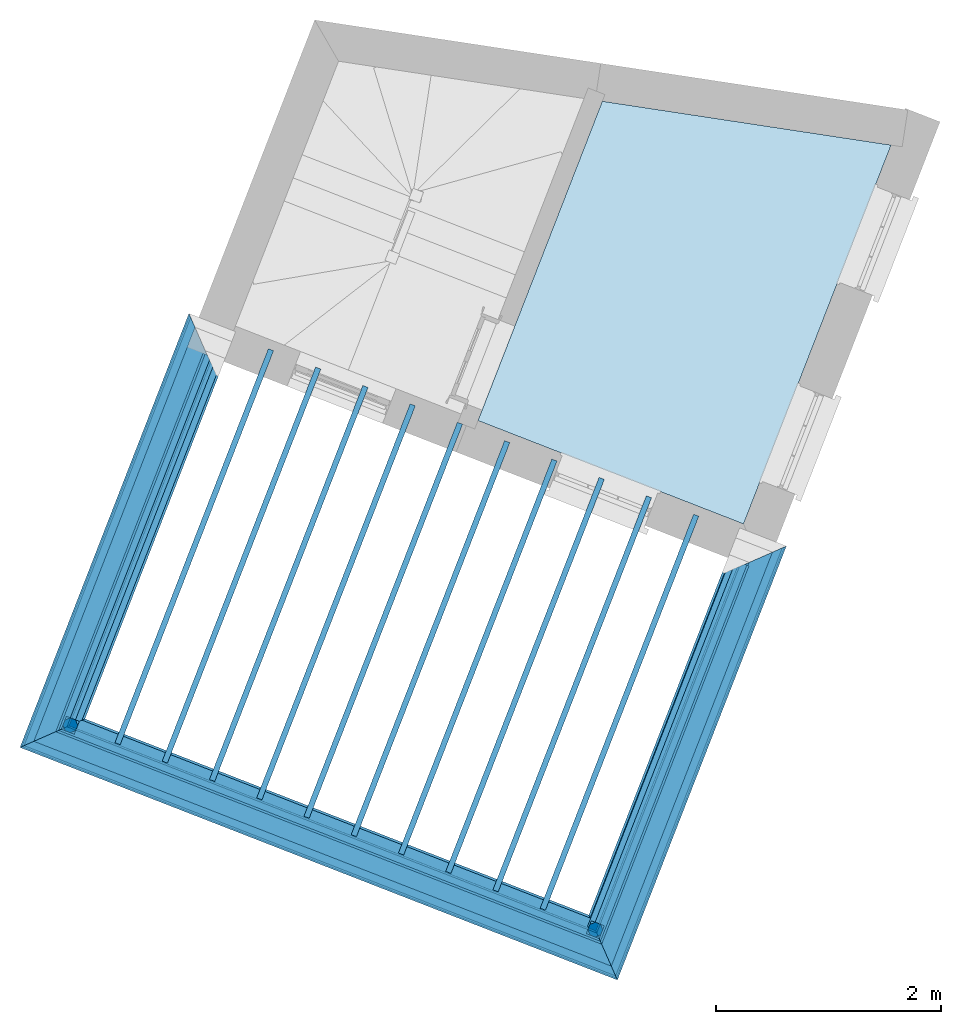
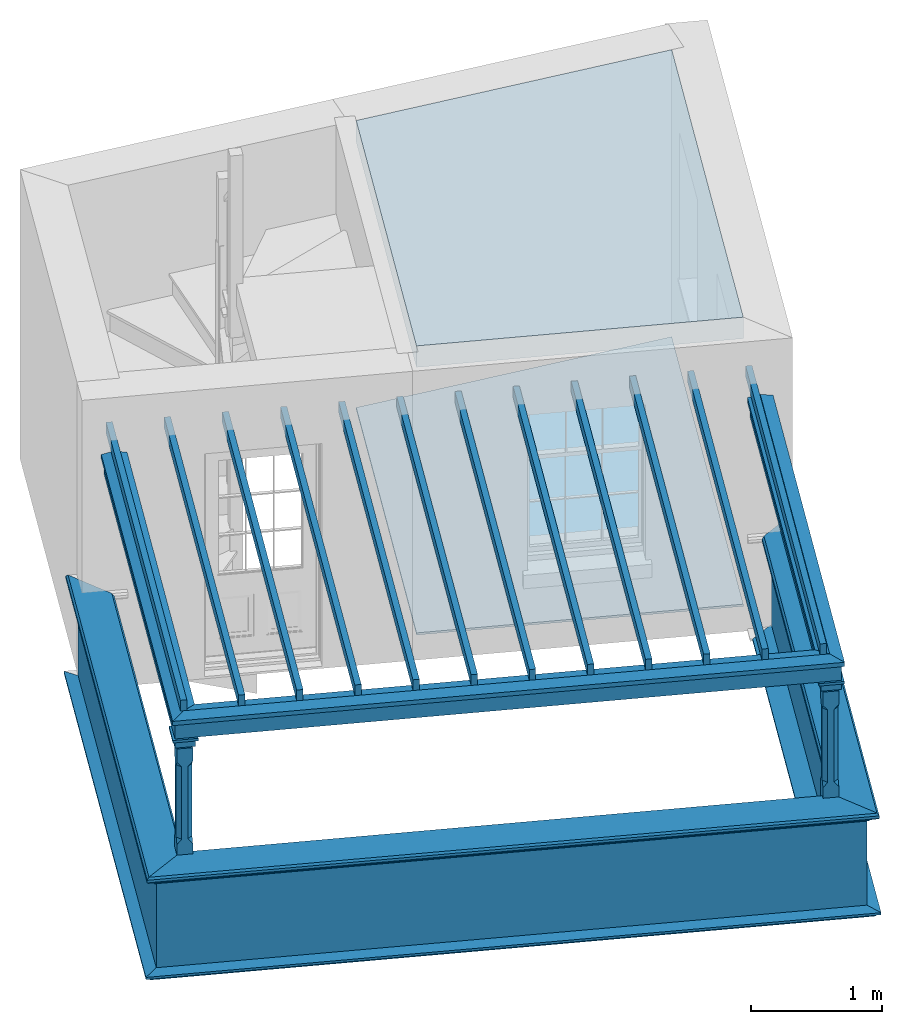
# One storey, part 1 of 5: 18 beams, 9 walls, 2 columns, 2 slabs.
"""IFC4 building model written with IfcOpenShell, lengths in metres."""

from ifc_helpers import new_model, si_unit, frame, origin, origin_with_axes, place, context, subcontext, project, spatial, polyline, outline, extrude, clip, halfspace, faceted_brep, source, transform, mapped, material_profile, profile_set, profile_usage, type_object, type_shapes, element, save


model = new_model("IFC4")

# Units and contexts
model_context = context("Model", 3, world=origin_with_axes())
body_context = subcontext(model_context, "Body", "Model", "MODEL_VIEW")
ifc_project = project(units=[si_unit("PLANEANGLEUNIT", "RADIAN"), si_unit("MASSUNIT", "GRAM", prefix="KILO"), si_unit("FORCEUNIT", "NEWTON", prefix="KILO"), si_unit("LENGTHUNIT", "METRE"), si_unit("AREAUNIT", "SQUARE_METRE"), si_unit("VOLUMEUNIT", "CUBIC_METRE")], contexts=[model_context, model_context])

# Sites, building, storey
site_1_placement = place(None, origin_with_axes())
site_1 = spatial("IfcSite", under=ifc_project, at=site_1_placement, Name="Tamar")
site_2_placement = place(site_1_placement, origin_with_axes())
site_2 = spatial("IfcSite", under=site_1, at=site_2_placement, Name="Site plot-10", CompositionType="ELEMENT")
building_placement = place(None, origin_with_axes())
building = spatial("IfcBuilding", under=site_2, at=building_placement, Name="Building plot-10", CompositionType="ELEMENT")
storey_placement = place(None, frame((0.0, 0.0, 30.1), z_axis=(0.0, 0.0, 1.0), x_axis=(1.0, 0.0, 0.0)))
storey = spatial("IfcBuildingStorey", under=building, at=storey_placement, Name="plot-10 1", CompositionType="ELEMENT", Elevation=30.1)

# Columns
column_type = type_object("IfcColumnType", Name="pergola post", PredefinedType="NOTDEFINED")
shared_shape = source(origin(), body_context, "Body", "Brep", [
    faceted_brep([(0.0246, -0.0615, 1.72), (0.0615, -0.0246, 1.72), (0.0615, -0.0615, 1.766667), (0.0615, -0.0246, 1.044444), (0.0246, -0.0615, 1.044444), (0.0615, 0.0246, 1.72), (0.0615, 0.0615, 1.766667), (-0.0246, -0.0615, 1.72), (-0.0615, -0.0615, 1.766667), (-0.0246, -0.0615, 1.044444), (0.0615, -0.0615, 0.997778), (0.0615, 0.0246, 1.044444), (0.0246, 0.0615, 1.72), (0.0615, 0.0615, 1.891111), (0.0615, -0.0615, 1.891111), (-0.0615, -0.0615, 1.891111), (-0.0615, -0.0246, 1.72), (-0.0615, -0.0246, 1.044444), (-0.0615, -0.0615, 0.997778), (0.0615, 0.0615, 0.997778), (0.0246, 0.0615, 1.044444), (-0.0246, 0.0615, 1.72), (-0.0615, 0.0615, 1.766667), (0.04305, 0.04305, 1.891111), (0.04305, -0.04305, 1.891111), (-0.0615, 0.0615, 1.891111), (-0.04305, -0.04305, 1.891111), (-0.0615, 0.0246, 1.72), (-0.0615, 0.0246, 1.044444), (0.0615, -0.0615, 0.053333), (-0.0615, -0.0615, 0.053333), (0.0615, 0.0615, 0.053333), (-0.0246, 0.0615, 1.044444), (-0.04305, 0.04305, 1.891111), (0.04305, 0.04305, 1.914444), (0.04305, -0.04305, 1.914444), (-0.04305, -0.04305, 1.914444), (-0.0615, 0.0615, 0.997778), (-0.0615, 0.0615, 0.053333), (-0.04305, -0.04305, 0.053333), (0.04305, -0.04305, 0.053333), (0.04305, 0.04305, 0.053333), (-0.04305, 0.04305, 1.914444), (0.07995, 0.07995, 1.914444), (0.07995, -0.07995, 1.914444), (-0.07995, -0.07995, 1.914444), (-0.04305, 0.04305, 0.053333), (-0.04305, -0.04305, 0.0), (0.04305, -0.04305, 0.0), (0.04305, 0.04305, 0.0), (-0.07995, 0.07995, 1.914444), (0.07995, 0.07995, 1.976667), (0.07995, -0.07995, 1.976667), (-0.07995, -0.07995, 1.976667), (-0.04305, 0.04305, 0.0), (-0.07995, 0.07995, 1.976667), (0.0984, 0.0984, 1.976667), (0.0984, -0.0984, 1.976667), (-0.0984, -0.0984, 1.976667), (-0.0984, 0.0984, 1.976667), (0.0984, 0.0984, 2.0), (0.0984, -0.0984, 2.0), (-0.0984, -0.0984, 2.0), (-0.0984, 0.0984, 2.0)], [[[0, 1, 2]], [[3, 1, 0, 4]], [[1, 5, 6, 2]], [[7, 0, 2, 8]], [[4, 0, 7, 9]], [[3, 4, 10]], [[1, 3, 11, 5]], [[5, 12, 6]], [[13, 14, 2, 6]], [[15, 8, 2, 14]], [[8, 16, 7]], [[9, 7, 16, 17]], [[9, 18, 10, 4]], [[3, 10, 19, 11]], [[20, 12, 5, 11]], [[21, 22, 6, 12]], [[14, 13, 23, 24]], [[13, 6, 22, 25]], [[25, 22, 8, 15]], [[26, 15, 14, 24]], [[16, 8, 22, 27]], [[27, 28, 17, 16]], [[17, 18, 9]], [[29, 10, 18, 30]], [[31, 19, 10, 29]], [[20, 11, 19]], [[12, 20, 32, 21]], [[21, 27, 22]], [[33, 23, 13, 25]], [[23, 34, 35, 24]], [[26, 33, 25, 15]], [[36, 26, 24, 35]], [[28, 27, 21, 32]], [[17, 28, 37, 18]], [[38, 30, 18, 37]], [[29, 30, 39, 40]], [[31, 38, 37, 19]], [[40, 41, 31, 29]], [[32, 20, 19, 37]], [[33, 42, 34, 23]], [[43, 44, 35, 34]], [[42, 33, 26, 36]], [[36, 35, 44, 45]], [[28, 32, 37]], [[46, 39, 30, 38]], [[39, 47, 48, 40]], [[46, 38, 31, 41]], [[49, 41, 40, 48]], [[43, 34, 42, 50]], [[43, 51, 52, 44]], [[45, 50, 42, 36]], [[53, 45, 44, 52]], [[46, 54, 47, 39]], [[54, 46, 41, 49]], [[50, 55, 51, 43]], [[56, 57, 52, 51]], [[55, 50, 45, 53]], [[53, 52, 57, 58]], [[56, 51, 55, 59]], [[56, 60, 61, 57]], [[58, 59, 55, 53]], [[62, 58, 57, 61]], [[59, 63, 60, 56]], [[63, 62, 61, 60]], [[58, 62, 63, 59]], [[47, 54, 49, 48]]]),
])
type_shapes(column_type, [shared_shape])
for number, where, z_axis, x_axis, name in (
    (1, (230.104635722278, 316.662695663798, 0.0), (0.0, 0.0, 1.0), (0.931863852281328, -0.36280815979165, 0.0), "pergola post"),
    (2, (234.763954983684, 314.84865486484, 0.0), (0.0, 0.0, 1.0), (0.362808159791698, 0.931863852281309, 0.0), "pergola post"),
):
    element("IfcColumn", number, at=place(storey_placement, frame(where, z_axis=z_axis, x_axis=x_axis)), inside=storey, type_object=column_type, Name=name, context=body_context, shape_type="MappedRepresentation", body=[
        mapped(shared_shape, transform((0.0, 0.0, 0.0), scale=1.0)),
    ])

# Beams
ifc_material_profile_1 = material_profile(None, outline(polyline([(-0.08, -0.7), (0.08, -0.7), (0.08, -0.56), (-0.08, -0.56), (-0.08, -0.7)])))
ifc_profile_set_1 = profile_set([ifc_material_profile_1])
ifc_profile_usage_1 = profile_usage(ifc_profile_set_1)
beam_type_1 = type_object("IfcBeamType", Name="pergola beam_0", PredefinedType="NOTDEFINED", material=ifc_profile_set_1)
beam_1_placement = place(storey_placement, frame((229.741827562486, 315.730831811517, 2.7), z_axis=(0.362808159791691, 0.931863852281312, 0.0), x_axis=(-0.931863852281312, 0.362808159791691, 0.0)))
element("IfcBeam", 3, at=beam_1_placement, inside=storey, type_object=beam_type_1, material=ifc_profile_usage_1, Name="pergola beam_0", context=body_context, shape_type="Clipping", body=[
    clip(clip(extrude(outline(polyline([(-0.08, -0.7), (0.08, -0.7), (0.08, -0.56), (-0.08, -0.56), (-0.08, -0.7)])), origin_with_axes(), (0.0, 0.0, 1.0), 5.50302305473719), halfspace(frame((0.0, 0.0, 4.50302305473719), z_axis=(1.94786928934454e-14, 0.0, -1.0), x_axis=(0.0, 1.0, 0.0)), True)), halfspace(frame((0.0, 0.0, 1.0), z_axis=(-0.707106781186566, 0.0, -0.707106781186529), x_axis=(0.0, 1.0, 0.0)), False)),
])
ifc_profile_usage_2 = profile_usage(ifc_profile_set_1)
beam_2_placement = place(storey_placement, frame((235.695818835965, 314.485846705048, 2.7), z_axis=(-0.931863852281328, 0.362808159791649, 0.0), x_axis=(-0.362808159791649, -0.931863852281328, 0.0)))
element("IfcBeam", 4, at=beam_2_placement, inside=storey, type_object=beam_type_1, material=ifc_profile_usage_2, Name="pergola beam_0", context=body_context, shape_type="Clipping", body=[
    clip(clip(extrude(outline(polyline([(-0.08, -0.7), (0.08, -0.7), (0.08, -0.56), (-0.08, -0.56), (-0.08, -0.7)])), origin_with_axes(), (0.0, 0.0, 1.0), 6.99999999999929), halfspace(frame((0.0, 0.0, 5.99999999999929), z_axis=(0.707106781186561, 0.0, -0.707106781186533), x_axis=(0.0, 1.0, 0.0)), True)), halfspace(frame((0.0, 0.0, 1.0), z_axis=(-0.707106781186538, 0.0, -0.707106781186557), x_axis=(0.0, 1.0, 0.0)), False)),
])
ifc_profile_usage_3 = profile_usage(ifc_profile_set_1)
beam_3_placement = place(storey_placement, frame((236.397688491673, 319.044859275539, 2.7), z_axis=(-0.362808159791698, -0.931863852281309, 0.0), x_axis=(0.931863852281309, -0.362808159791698, 0.0)))
element("IfcBeam", 5, at=beam_3_placement, inside=storey, type_object=beam_type_1, material=ifc_profile_usage_3, Name="pergola beam_0", context=body_context, shape_type="Clipping", body=[
    clip(clip(extrude(outline(polyline([(-0.08, -0.7), (0.08, -0.7), (0.08, -0.56), (-0.08, -0.56), (-0.08, -0.7)])), origin_with_axes(), (0.0, 0.0, 1.0), 5.5030230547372), halfspace(frame((0.0, 0.0, 4.5030230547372), z_axis=(0.70710678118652, 0.0, -0.707106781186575), x_axis=(0.0, 1.0, 0.0)), True)), halfspace(frame((0.0, 0.0, 1.0), z_axis=(1.21512209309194e-14, 0.0, -1.0), x_axis=(0.0, 1.0, 0.0)), False)),
])
ifc_material_profile_2 = material_profile(None, outline(polyline([(0.0, -0.5), (-0.1, -0.52), (-0.1, -0.56), (0.1, -0.56), (0.1, -0.52), (0.0, -0.5)])))
ifc_profile_set_2 = profile_set([ifc_material_profile_2])
ifc_profile_usage_4 = profile_usage(ifc_profile_set_2)
beam_type_2 = type_object("IfcBeamType", Name="pergola beam_1", PredefinedType="NOTDEFINED", material=ifc_profile_set_2)
beam_4_placement = place(storey_placement, frame((229.741827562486, 315.730831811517, 2.7), z_axis=(0.362808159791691, 0.931863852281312, 0.0), x_axis=(-0.931863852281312, 0.362808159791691, 0.0)))
element("IfcBeam", 6, at=beam_4_placement, inside=storey, type_object=beam_type_2, material=ifc_profile_usage_4, Name="pergola beam_1", context=body_context, shape_type="Clipping", body=[
    clip(clip(extrude(outline(polyline([(0.0, -0.5), (-0.1, -0.52), (-0.1, -0.56), (0.1, -0.56), (0.1, -0.52), (0.0, -0.5)])), origin_with_axes(), (0.0, 0.0, 1.0), 5.50302305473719), halfspace(frame((0.0, 0.0, 4.50302305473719), z_axis=(1.94786928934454e-14, 0.0, -1.0), x_axis=(0.0, 1.0, 0.0)), True)), halfspace(frame((0.0, 0.0, 1.0), z_axis=(-0.707106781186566, 0.0, -0.707106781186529), x_axis=(0.0, 1.0, 0.0)), False)),
])
ifc_profile_usage_5 = profile_usage(ifc_profile_set_2)
beam_5_placement = place(storey_placement, frame((235.695818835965, 314.485846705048, 2.7), z_axis=(-0.931863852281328, 0.362808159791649, 0.0), x_axis=(-0.362808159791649, -0.931863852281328, 0.0)))
element("IfcBeam", 7, at=beam_5_placement, inside=storey, type_object=beam_type_2, material=ifc_profile_usage_5, Name="pergola beam_1", context=body_context, shape_type="Clipping", body=[
    clip(clip(extrude(outline(polyline([(0.0, -0.5), (-0.1, -0.52), (-0.1, -0.56), (0.1, -0.56), (0.1, -0.52), (0.0, -0.5)])), origin_with_axes(), (0.0, 0.0, 1.0), 6.99999999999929), halfspace(frame((0.0, 0.0, 5.99999999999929), z_axis=(0.707106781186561, 0.0, -0.707106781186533), x_axis=(0.0, 1.0, 0.0)), True)), halfspace(frame((0.0, 0.0, 1.0), z_axis=(-0.707106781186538, 0.0, -0.707106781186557), x_axis=(0.0, 1.0, 0.0)), False)),
])
ifc_profile_usage_6 = profile_usage(ifc_profile_set_2)
beam_6_placement = place(storey_placement, frame((236.397688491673, 319.044859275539, 2.7), z_axis=(-0.362808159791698, -0.931863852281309, 0.0), x_axis=(0.931863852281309, -0.362808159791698, 0.0)))
element("IfcBeam", 8, at=beam_6_placement, inside=storey, type_object=beam_type_2, material=ifc_profile_usage_6, Name="pergola beam_1", context=body_context, shape_type="Clipping", body=[
    clip(clip(extrude(outline(polyline([(0.0, -0.5), (-0.1, -0.52), (-0.1, -0.56), (0.1, -0.56), (0.1, -0.52), (0.0, -0.5)])), origin_with_axes(), (0.0, 0.0, 1.0), 5.5030230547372), halfspace(frame((0.0, 0.0, 4.5030230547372), z_axis=(0.70710678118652, 0.0, -0.707106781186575), x_axis=(0.0, 1.0, 0.0)), True)), halfspace(frame((0.0, 0.0, 1.0), z_axis=(1.21512209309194e-14, 0.0, -1.0), x_axis=(0.0, 1.0, 0.0)), False)),
])
beam_7_placement = place(storey_placement, frame((230.081339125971, 316.671765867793, 2.2)))
element("IfcBeam", 9, at=beam_7_placement, inside=storey, Name="My Beam", ObjectType="Beam", context=body_context, shape_type="SweptSolid", body=[
    extrude(outline(polyline([(0.0, 0.0), (0.0465931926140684, -0.0181404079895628), (1.40822058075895, 3.47916611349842), (1.36162738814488, 3.49730652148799), (0.0, 0.0)])), origin_with_axes(), (0.0, 0.0, 1.0), 0.1),
])
beam_8_placement = place(storey_placement, frame((230.500677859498, 316.508502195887, 2.2)))
element("IfcBeam", 10, at=beam_8_placement, inside=storey, Name="My Beam", ObjectType="Beam", context=body_context, shape_type="SweptSolid", body=[
    extrude(outline(polyline([(0.0, 0.0), (0.0465931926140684, -0.0181404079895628), (1.40822058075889, 3.47916611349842), (1.36162738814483, 3.49730652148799), (0.0, 0.0)])), origin_with_axes(), (0.0, 0.0, 1.0), 0.1),
])
beam_9_placement = place(storey_placement, frame((230.920016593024, 316.34523852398, 2.2)))
element("IfcBeam", 11, at=beam_9_placement, inside=storey, Name="My Beam", ObjectType="Beam", context=body_context, shape_type="SweptSolid", body=[
    extrude(outline(polyline([(0.0, 0.0), (0.0465931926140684, -0.0181404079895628), (1.40822058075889, 3.47916611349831), (1.36162738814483, 3.49730652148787), (0.0, 0.0)])), origin_with_axes(), (0.0, 0.0, 1.0), 0.1),
])
beam_10_placement = place(storey_placement, frame((231.339355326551, 316.181974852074, 2.2)))
element("IfcBeam", 12, at=beam_10_placement, inside=storey, Name="My Beam", ObjectType="Beam", context=body_context, shape_type="SweptSolid", body=[
    extrude(outline(polyline([(0.0, 0.0), (0.0465931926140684, -0.0181404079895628), (1.40822058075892, 3.47916611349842), (1.36162738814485, 3.49730652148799), (0.0, 0.0)])), origin_with_axes(), (0.0, 0.0, 1.0), 0.1),
])
beam_11_placement = place(storey_placement, frame((231.758694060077, 316.018711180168, 2.2)))
element("IfcBeam", 13, at=beam_11_placement, inside=storey, Name="My Beam", ObjectType="Beam", context=body_context, shape_type="SweptSolid", body=[
    extrude(outline(polyline([(0.0, 0.0), (0.0465931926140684, -0.0181404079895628), (1.40822058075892, 3.47916611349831), (1.36162738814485, 3.49730652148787), (0.0, 0.0)])), origin_with_axes(), (0.0, 0.0, 1.0), 0.1),
])
beam_12_placement = place(storey_placement, frame((232.178032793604, 315.855447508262, 2.2)))
element("IfcBeam", 14, at=beam_12_placement, inside=storey, Name="My Beam", ObjectType="Beam", context=body_context, shape_type="SweptSolid", body=[
    extrude(outline(polyline([(0.0, 0.0), (0.0465931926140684, -0.0181404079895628), (1.40822058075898, 3.47916611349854), (1.36162738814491, 3.4973065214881), (0.0, 0.0)])), origin_with_axes(), (0.0, 0.0, 1.0), 0.1),
])
for number, where, name in (
    (15, (232.597371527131, 315.692183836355, 2.2), "My Beam"),
    (16, (233.016710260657, 315.528920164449, 2.2), "My Beam"),
):
    element("IfcBeam", number, at=place(storey_placement, frame(where)), inside=storey, Name=name, ObjectType="Beam", context=body_context, shape_type="SweptSolid", body=[
        extrude(outline(polyline([(0.0, 0.0), (0.0465931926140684, -0.0181404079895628), (1.40822058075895, 3.47916611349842), (1.36162738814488, 3.49730652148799), (0.0, 0.0)])), origin_with_axes(), (0.0, 0.0, 1.0), 0.1),
    ])
beam_13_placement = place(storey_placement, frame((233.436048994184, 315.365656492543, 2.2)))
element("IfcBeam", 17, at=beam_13_placement, inside=storey, Name="My Beam", ObjectType="Beam", context=body_context, shape_type="SweptSolid", body=[
    extrude(outline(polyline([(0.0, 0.0), (0.0465931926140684, -0.0181404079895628), (1.40822058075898, 3.47916611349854), (1.36162738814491, 3.4973065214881), (0.0, 0.0)])), origin_with_axes(), (0.0, 0.0, 1.0), 0.1),
])
for number, where, name in (
    (18, (233.85538772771, 315.202392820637, 2.2), "My Beam"),
    (19, (234.274726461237, 315.03912914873, 2.2), "My Beam"),
):
    element("IfcBeam", number, at=place(storey_placement, frame(where)), inside=storey, Name=name, ObjectType="Beam", context=body_context, shape_type="SweptSolid", body=[
        extrude(outline(polyline([(0.0, 0.0), (0.0465931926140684, -0.0181404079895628), (1.40822058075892, 3.47916611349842), (1.36162738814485, 3.49730652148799), (0.0, 0.0)])), origin_with_axes(), (0.0, 0.0, 1.0), 0.1),
    ])
beam_14_placement = place(storey_placement, frame((234.694065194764, 314.875865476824, 2.2)))
element("IfcBeam", 20, at=beam_14_placement, inside=storey, Name="My Beam", ObjectType="Beam", context=body_context, shape_type="SweptSolid", body=[
    extrude(outline(polyline([(0.0, 0.0), (0.0465931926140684, -0.0181404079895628), (1.40822058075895, 3.47916611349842), (1.36162738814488, 3.49730652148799), (0.0, 0.0)])), origin_with_axes(), (0.0, 0.0, 1.0), 0.1),
])

# Slabs
slab_1_placement = place(storey_placement, frame((234.82656201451, 322.201411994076, 2.5)))
element("IfcSlab", 21, at=slab_1_placement, inside=storey, Name="My Slab", ObjectType="Slab", PredefinedType="FLOOR", context=body_context, shape_type="SweptSolid", body=[
    extrude(outline(polyline([(0.0, 0.0), (-1.10346645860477, -2.83422651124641), (1.25349590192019, -3.75187684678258), (2.56278690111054, -0.38899505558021), (0.0, 0.0)])), origin_with_axes(), (0.0, 0.0, 1.0), 0.2),
])
slab_2_placement = place(storey_placement, frame((234.82656201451, 322.201411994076, 0.0)))
element("IfcSlab", 22, at=slab_2_placement, inside=storey, Name="My Slab", ObjectType="Slab", PredefinedType="FLOOR", context=body_context, shape_type="SweptSolid", body=[
    extrude(outline(polyline([(0.0, 0.0), (-1.10346645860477, -2.83422651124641), (1.25349590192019, -3.75187684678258), (2.56278690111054, -0.38899505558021), (0.0, 0.0)])), origin_with_axes(), (0.0, 0.0, 1.0), 0.02),
])

# Walls
ifc_material_profile_3 = material_profile(None, outline(polyline([(0.25, 0.0), (0.25, 0.795), (0.09, 0.795), (0.09, 0.02), (-0.08, 0.02), (-0.08, 0.0), (0.25, 0.0)])))
ifc_profile_set_3 = profile_set([ifc_material_profile_3])
ifc_profile_usage_7 = profile_usage(ifc_profile_set_3)
wall_type_1 = type_object("IfcWallType", Name="parapet_0", PredefinedType="PARAPET", material=ifc_profile_set_3)
wall_1_placement = place(storey_placement, frame((229.741827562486, 315.730831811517, 0.0), z_axis=(0.362808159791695, 0.93186385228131, 0.0), x_axis=(-0.93186385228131, 0.362808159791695, 0.0)))
element("IfcWall", 23, at=wall_1_placement, inside=storey, type_object=wall_type_1, material=ifc_profile_usage_7, Name="parapet_0", context=body_context, shape_type="Clipping", body=[
    clip(clip(extrude(outline(polyline([(0.25, 0.0), (0.25, 0.795), (0.09, 0.795), (0.09, 0.02), (-0.08, 0.02), (-0.08, 0.0), (0.25, 0.0)])), origin_with_axes(), (0.0, 0.0, 1.0), 5.44302305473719), halfspace(frame((0.0, 0.0, 4.44302305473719), z_axis=(0.70710678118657, 0.0, -0.707106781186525), x_axis=(0.0, 1.0, 0.0)), True)), halfspace(frame((0.0, 0.0, 1.0), z_axis=(-0.707106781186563, 0.0, -0.707106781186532), x_axis=(0.0, 1.0, 0.0)), False)),
])
ifc_profile_usage_8 = profile_usage(ifc_profile_set_3)
wall_2_placement = place(storey_placement, frame((235.695818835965, 314.485846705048, 0.0), z_axis=(-0.931863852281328, 0.362808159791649, 0.0), x_axis=(-0.362808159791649, -0.931863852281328, 0.0)))
element("IfcWall", 24, at=wall_2_placement, inside=storey, type_object=wall_type_1, material=ifc_profile_usage_8, Name="parapet_0", context=body_context, shape_type="Clipping", body=[
    clip(clip(extrude(outline(polyline([(0.25, 0.0), (0.25, 0.795), (0.09, 0.795), (0.09, 0.02), (-0.08, 0.02), (-0.08, 0.0), (0.25, 0.0)])), origin_with_axes(), (0.0, 0.0, 1.0), 6.99999999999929), halfspace(frame((0.0, 0.0, 5.99999999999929), z_axis=(0.707106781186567, 0.0, -0.707106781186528), x_axis=(0.0, 1.0, 0.0)), True)), halfspace(frame((0.0, 0.0, 1.0), z_axis=(-0.707106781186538, 0.0, -0.707106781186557), x_axis=(0.0, 1.0, 0.0)), False)),
])
ifc_profile_usage_9 = profile_usage(ifc_profile_set_3)
wall_3_placement = place(storey_placement, frame((236.375920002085, 318.988947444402, 0.0), z_axis=(-0.362808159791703, -0.931863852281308, 0.0), x_axis=(0.931863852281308, -0.362808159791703, 0.0)))
element("IfcWall", 25, at=wall_3_placement, inside=storey, type_object=wall_type_1, material=ifc_profile_usage_9, Name="parapet_0", context=body_context, shape_type="Clipping", body=[
    clip(clip(extrude(outline(polyline([(0.25, 0.0), (0.25, 0.795), (0.09, 0.795), (0.09, 0.02), (-0.08, 0.02), (-0.08, 0.0), (0.25, 0.0)])), origin_with_axes(), (0.0, 0.0, 1.0), 5.4430230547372), halfspace(frame((0.0, 0.0, 4.4430230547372), z_axis=(0.707106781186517, 0.0, -0.707106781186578), x_axis=(0.0, 1.0, 0.0)), True)), halfspace(frame((0.0, 0.0, 1.0), z_axis=(-0.707106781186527, 0.0, -0.707106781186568), x_axis=(0.0, 1.0, 0.0)), False)),
])
ifc_material_profile_4 = material_profile(None, outline(polyline([(0.265, 0.795), (0.268, 0.807), (0.274, 0.816), (0.283, 0.822), (0.295, 0.825), (0.295, 0.84), (0.305, 0.84), (0.317, 0.842), (0.326, 0.849), (0.333, 0.858), (0.335, 0.87), (0.333, 0.882), (0.326, 0.891), (0.317, 0.898), (0.305, 0.9), (0.035, 0.9), (0.023, 0.898), (0.014, 0.891), (0.007, 0.882), (0.005, 0.87), (0.007, 0.858), (0.014, 0.849), (0.023, 0.842), (0.035, 0.84), (0.045, 0.84), (0.045, 0.825), (0.057, 0.822), (0.066, 0.816), (0.072, 0.807), (0.075, 0.795), (0.265, 0.795)])))
ifc_profile_set_4 = profile_set([ifc_material_profile_4])
ifc_profile_usage_10 = profile_usage(ifc_profile_set_4)
wall_type_2 = type_object("IfcWallType", Name="parapet_1", PredefinedType="PARAPET", material=ifc_profile_set_4)
wall_4_placement = place(storey_placement, frame((229.741827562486, 315.730831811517, 0.0), z_axis=(0.362808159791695, 0.93186385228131, 0.0), x_axis=(-0.93186385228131, 0.362808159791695, 0.0)))
element("IfcWall", 26, at=wall_4_placement, inside=storey, type_object=wall_type_2, material=ifc_profile_usage_10, Name="parapet_1", context=body_context, shape_type="Clipping", body=[
    clip(clip(extrude(outline(polyline([(0.265, 0.795), (0.268, 0.807), (0.274, 0.816), (0.283, 0.822), (0.295, 0.825), (0.295, 0.84), (0.305, 0.84), (0.317, 0.842), (0.326, 0.849), (0.333, 0.858), (0.335, 0.87), (0.333, 0.882), (0.326, 0.891), (0.317, 0.898), (0.305, 0.9), (0.035, 0.9), (0.023, 0.898), (0.014, 0.891), (0.007, 0.882), (0.005, 0.87), (0.007, 0.858), (0.014, 0.849), (0.023, 0.842), (0.035, 0.84), (0.045, 0.84), (0.045, 0.825), (0.057, 0.822), (0.066, 0.816), (0.072, 0.807), (0.075, 0.795), (0.265, 0.795)])), origin_with_axes(), (0.0, 0.0, 1.0), 5.44302305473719), halfspace(frame((0.0, 0.0, 4.44302305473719), z_axis=(0.70710678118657, 0.0, -0.707106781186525), x_axis=(0.0, 1.0, 0.0)), True)), halfspace(frame((0.0, 0.0, 1.0), z_axis=(-0.707106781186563, 0.0, -0.707106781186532), x_axis=(0.0, 1.0, 0.0)), False)),
])
ifc_profile_usage_11 = profile_usage(ifc_profile_set_4)
wall_5_placement = place(storey_placement, frame((235.695818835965, 314.485846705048, 0.0), z_axis=(-0.931863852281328, 0.362808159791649, 0.0), x_axis=(-0.362808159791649, -0.931863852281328, 0.0)))
element("IfcWall", 27, at=wall_5_placement, inside=storey, type_object=wall_type_2, material=ifc_profile_usage_11, Name="parapet_1", context=body_context, shape_type="Clipping", body=[
    clip(clip(extrude(outline(polyline([(0.265, 0.795), (0.268, 0.807), (0.274, 0.816), (0.283, 0.822), (0.295, 0.825), (0.295, 0.84), (0.305, 0.84), (0.317, 0.842), (0.326, 0.849), (0.333, 0.858), (0.335, 0.87), (0.333, 0.882), (0.326, 0.891), (0.317, 0.898), (0.305, 0.9), (0.035, 0.9), (0.023, 0.898), (0.014, 0.891), (0.007, 0.882), (0.005, 0.87), (0.007, 0.858), (0.014, 0.849), (0.023, 0.842), (0.035, 0.84), (0.045, 0.84), (0.045, 0.825), (0.057, 0.822), (0.066, 0.816), (0.072, 0.807), (0.075, 0.795), (0.265, 0.795)])), origin_with_axes(), (0.0, 0.0, 1.0), 6.99999999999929), halfspace(frame((0.0, 0.0, 5.99999999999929), z_axis=(0.707106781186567, 0.0, -0.707106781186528), x_axis=(0.0, 1.0, 0.0)), True)), halfspace(frame((0.0, 0.0, 1.0), z_axis=(-0.707106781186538, 0.0, -0.707106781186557), x_axis=(0.0, 1.0, 0.0)), False)),
])
ifc_profile_usage_12 = profile_usage(ifc_profile_set_4)
wall_6_placement = place(storey_placement, frame((236.375920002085, 318.988947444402, 0.0), z_axis=(-0.362808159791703, -0.931863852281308, 0.0), x_axis=(0.931863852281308, -0.362808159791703, 0.0)))
element("IfcWall", 28, at=wall_6_placement, inside=storey, type_object=wall_type_2, material=ifc_profile_usage_12, Name="parapet_1", context=body_context, shape_type="Clipping", body=[
    clip(clip(extrude(outline(polyline([(0.265, 0.795), (0.268, 0.807), (0.274, 0.816), (0.283, 0.822), (0.295, 0.825), (0.295, 0.84), (0.305, 0.84), (0.317, 0.842), (0.326, 0.849), (0.333, 0.858), (0.335, 0.87), (0.333, 0.882), (0.326, 0.891), (0.317, 0.898), (0.305, 0.9), (0.035, 0.9), (0.023, 0.898), (0.014, 0.891), (0.007, 0.882), (0.005, 0.87), (0.007, 0.858), (0.014, 0.849), (0.023, 0.842), (0.035, 0.84), (0.045, 0.84), (0.045, 0.825), (0.057, 0.822), (0.066, 0.816), (0.072, 0.807), (0.075, 0.795), (0.265, 0.795)])), origin_with_axes(), (0.0, 0.0, 1.0), 5.4430230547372), halfspace(frame((0.0, 0.0, 4.4430230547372), z_axis=(0.707106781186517, 0.0, -0.707106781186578), x_axis=(0.0, 1.0, 0.0)), True)), halfspace(frame((0.0, 0.0, 1.0), z_axis=(-0.707106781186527, 0.0, -0.707106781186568), x_axis=(0.0, 1.0, 0.0)), False)),
])
ifc_material_profile_5 = material_profile(None, outline(polyline([(0.25, -0.1), (0.265, -0.1), (0.265, -0.085), (0.278, -0.084), (0.289, -0.081), (0.301, -0.074), (0.309, -0.065), (0.315, -0.055), (0.324, -0.044), (0.334, -0.038), (0.345, -0.035), (0.345, -0.015), (0.25, 0.0), (0.25, -0.1)])))
ifc_profile_set_5 = profile_set([ifc_material_profile_5])
ifc_profile_usage_13 = profile_usage(ifc_profile_set_5)
wall_type_3 = type_object("IfcWallType", Name="parapet_2", PredefinedType="PARAPET", material=ifc_profile_set_5)
wall_7_placement = place(storey_placement, frame((229.741827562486, 315.730831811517, 0.0), z_axis=(0.362808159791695, 0.93186385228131, 0.0), x_axis=(-0.93186385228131, 0.362808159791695, 0.0)))
element("IfcWall", 29, at=wall_7_placement, inside=storey, type_object=wall_type_3, material=ifc_profile_usage_13, Name="parapet_2", context=body_context, shape_type="Clipping", body=[
    clip(clip(extrude(outline(polyline([(0.25, -0.1), (0.265, -0.1), (0.265, -0.085), (0.278, -0.084), (0.289, -0.081), (0.301, -0.074), (0.309, -0.065), (0.315, -0.055), (0.324, -0.044), (0.334, -0.038), (0.345, -0.035), (0.345, -0.015), (0.25, 0.0), (0.25, -0.1)])), origin_with_axes(), (0.0, 0.0, 1.0), 5.44302305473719), halfspace(frame((0.0, 0.0, 4.44302305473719), z_axis=(0.70710678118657, 0.0, -0.707106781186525), x_axis=(0.0, 1.0, 0.0)), True)), halfspace(frame((0.0, 0.0, 1.0), z_axis=(-0.707106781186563, 0.0, -0.707106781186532), x_axis=(0.0, 1.0, 0.0)), False)),
])
ifc_profile_usage_14 = profile_usage(ifc_profile_set_5)
wall_8_placement = place(storey_placement, frame((235.695818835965, 314.485846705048, 0.0), z_axis=(-0.931863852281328, 0.362808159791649, 0.0), x_axis=(-0.362808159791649, -0.931863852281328, 0.0)))
element("IfcWall", 30, at=wall_8_placement, inside=storey, type_object=wall_type_3, material=ifc_profile_usage_14, Name="parapet_2", context=body_context, shape_type="Clipping", body=[
    clip(clip(extrude(outline(polyline([(0.25, -0.1), (0.265, -0.1), (0.265, -0.085), (0.278, -0.084), (0.289, -0.081), (0.301, -0.074), (0.309, -0.065), (0.315, -0.055), (0.324, -0.044), (0.334, -0.038), (0.345, -0.035), (0.345, -0.015), (0.25, 0.0), (0.25, -0.1)])), origin_with_axes(), (0.0, 0.0, 1.0), 6.99999999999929), halfspace(frame((0.0, 0.0, 5.99999999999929), z_axis=(0.707106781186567, 0.0, -0.707106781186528), x_axis=(0.0, 1.0, 0.0)), True)), halfspace(frame((0.0, 0.0, 1.0), z_axis=(-0.707106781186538, 0.0, -0.707106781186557), x_axis=(0.0, 1.0, 0.0)), False)),
])
ifc_profile_usage_15 = profile_usage(ifc_profile_set_5)
wall_9_placement = place(storey_placement, frame((236.375920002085, 318.988947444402, 0.0), z_axis=(-0.362808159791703, -0.931863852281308, 0.0), x_axis=(0.931863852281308, -0.362808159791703, 0.0)))
element("IfcWall", 31, at=wall_9_placement, inside=storey, type_object=wall_type_3, material=ifc_profile_usage_15, Name="parapet_2", context=body_context, shape_type="Clipping", body=[
    clip(clip(extrude(outline(polyline([(0.25, -0.1), (0.265, -0.1), (0.265, -0.085), (0.278, -0.084), (0.289, -0.081), (0.301, -0.074), (0.309, -0.065), (0.315, -0.055), (0.324, -0.044), (0.334, -0.038), (0.345, -0.035), (0.345, -0.015), (0.25, 0.0), (0.25, -0.1)])), origin_with_axes(), (0.0, 0.0, 1.0), 5.4430230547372), halfspace(frame((0.0, 0.0, 4.4430230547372), z_axis=(0.707106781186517, 0.0, -0.707106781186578), x_axis=(0.0, 1.0, 0.0)), True)), halfspace(frame((0.0, 0.0, 1.0), z_axis=(-0.707106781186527, 0.0, -0.707106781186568), x_axis=(0.0, 1.0, 0.0)), False)),
])

save(model, "model.ifc")
